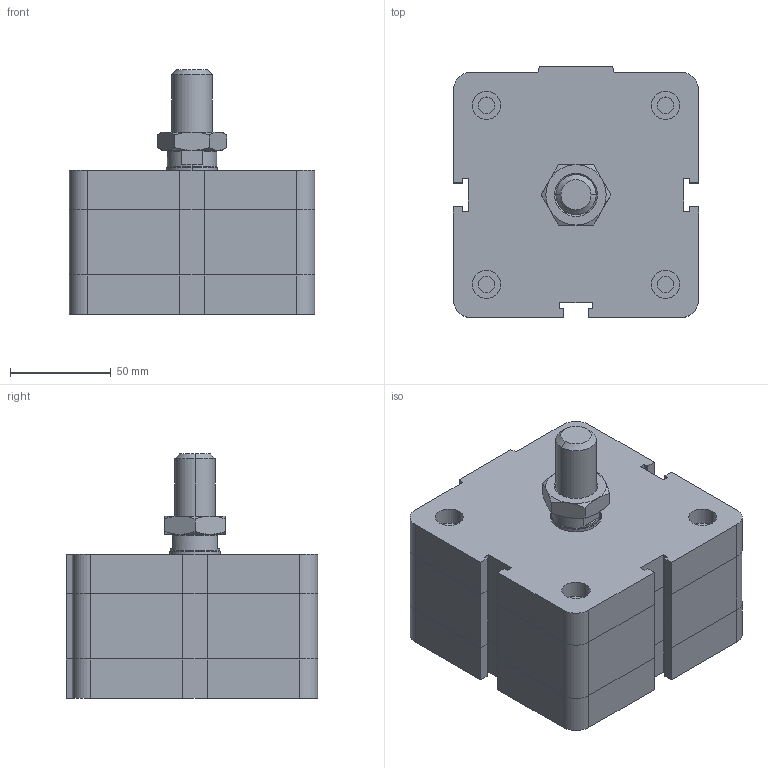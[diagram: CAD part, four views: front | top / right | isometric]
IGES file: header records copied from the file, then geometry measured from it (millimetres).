
Global section: file name: No Iges File Name specified; native system: Autodesk Inventor 2009; preprocessor: AutoDesk Inventor Iges Exporter R2009; author: rivolro1; date: 20081219.160856; units: millimetre
Bounding box: 122 x 125 x 121.5 mm (x, y, z)
Volume: 1047338.6 mm3; surface area: 85740.9 mm2
Topology: 3 solids, 3 shells, 216 faces, 472 edges, 282 vertices
Faces by surface type: plane 121, bspline 37, cylinder 20, cone 20, revolution 18
